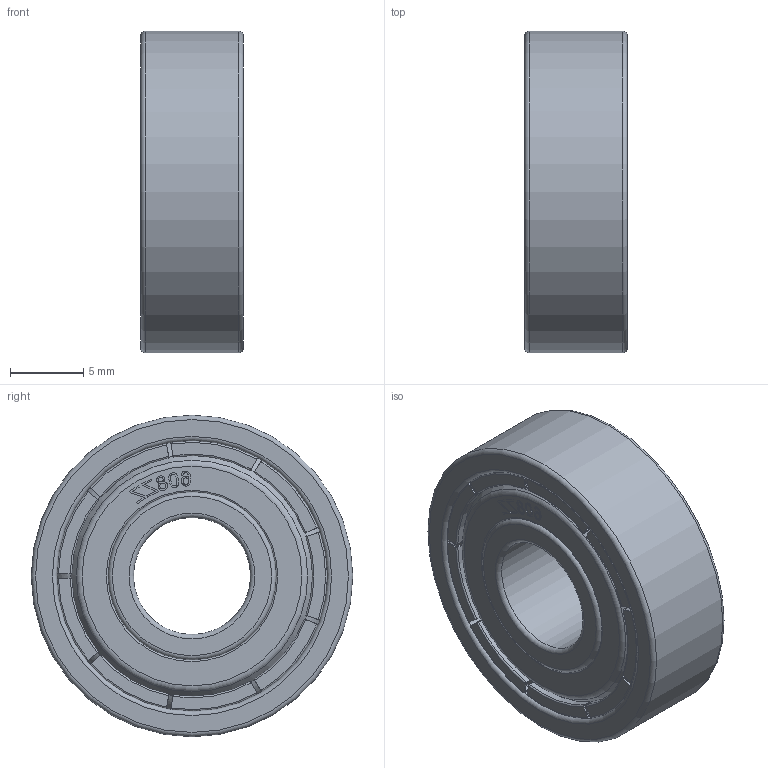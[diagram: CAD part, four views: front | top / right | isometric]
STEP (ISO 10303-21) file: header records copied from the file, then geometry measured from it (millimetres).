
FILE_DESCRIPTION(/* description */ (''),/* implementation_level */ '2;1');
FILE_NAME(/* name */ '608zz.step',/* time_stamp */ '2026-05-19T15:10:15+05:30',/* author */ (''),/* organization */ (''),/* preprocessor_version */ 'ST-DEVELOPER v20.1',/* originating_system */ 'Autodesk Translation Framework v15.8.0.0',/* authorisation */ '');
FILE_SCHEMA (('AUTOMOTIVE_DESIGN { 1 0 10303 214 3 1 1 }'));
Length unit declared in the file: millimetre
Products named in the file (1): 608zz
Bounding box: 7 x 22 x 22 mm (x, y, z)
Volume: 1484.2 mm3; surface area: 3287.9 mm2
Topology: 5 solids, 5 shells, 636 faces, 1806 edges, 1196 vertices
Faces by surface type: plane 196, bspline 164, torus 161, cylinder 84, cone 22, sphere 9
Full cylindrical faces by diameter (mm): 8 x1, 11.5 x2, 11.52 x2, 11.72 x2, 18.5 x2, 22 x1
Entity records: 23085 total; most frequent: CARTESIAN_POINT 7073, ORIENTED_EDGE 3576, DIRECTION 3076, EDGE_CURVE 1788, VERTEX_POINT 1196, AXIS2_PLACEMENT_3D 1183, LINE 710, VECTOR 710
